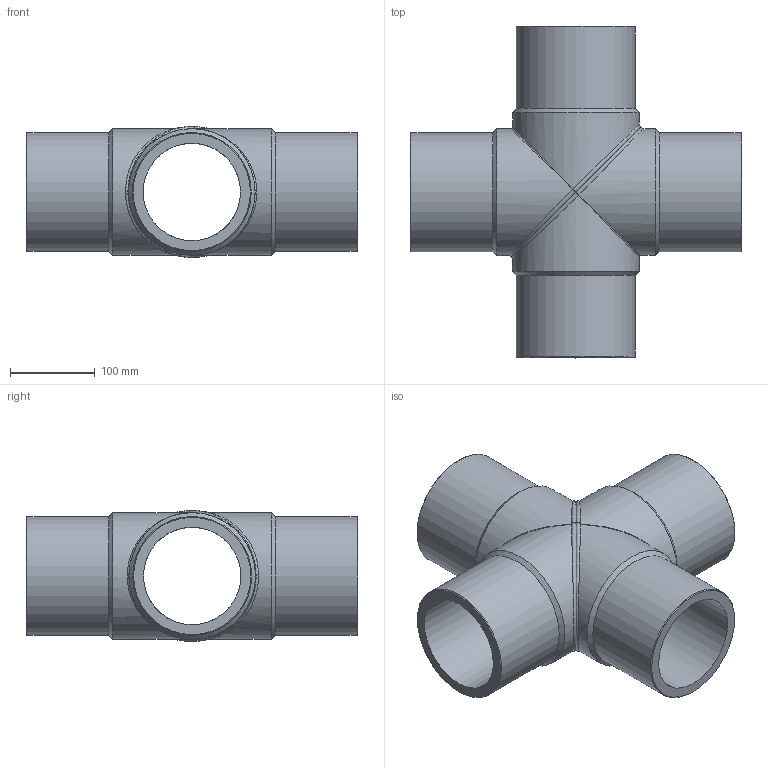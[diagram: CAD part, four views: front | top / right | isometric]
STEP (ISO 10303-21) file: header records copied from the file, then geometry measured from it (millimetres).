
FILE_DESCRIPTION(/* description */ ('Unknown'),/* implementation_level */ '2;1');
FILE_NAME(/* name */ 'CRP140C',/* time_stamp */ '2022-07-07T17:04:02+02:00',/* author */ ('Unknown'),/* organization */ ('Unknown'),/* preprocessor_version */ 'ST-DEVELOPER v18.102',/* originating_system */ 'Solid Edge',/* authorisation */ 'Unknown');
FILE_SCHEMA (('AUTOMOTIVE_DESIGN {1 0 10303 214 3 1 1}'));
Length unit declared in the file: millimetre
Products named in the file (3): CRP140C; CRP140C_mir
Assembly tree (2 placements, depth 2):
  CRP140C
    CRP140C
    CRP140C_mir
Bounding box: 390.5 x 390.5 x 153.99 mm (x, y, z)
Volume: 3551411.9 mm3; surface area: 538169.3 mm2
Topology: 2 solids, 2 shells, 32 faces, 90 edges, 60 vertices
Faces by surface type: cylinder 12, cone 8, plane 6, bspline 6
Full cylindrical faces by diameter (mm): 114.6 x4, 140 x4, 149 x4
Entity records: 3089 total; most frequent: CARTESIAN_POINT 2361, DIRECTION 126, ORIENTED_EDGE 120, AXIS2_PLACEMENT_3D 63, EDGE_CURVE 60, EDGE_LOOP 58, FACE_BOUND 58, VERTEX_POINT 50
